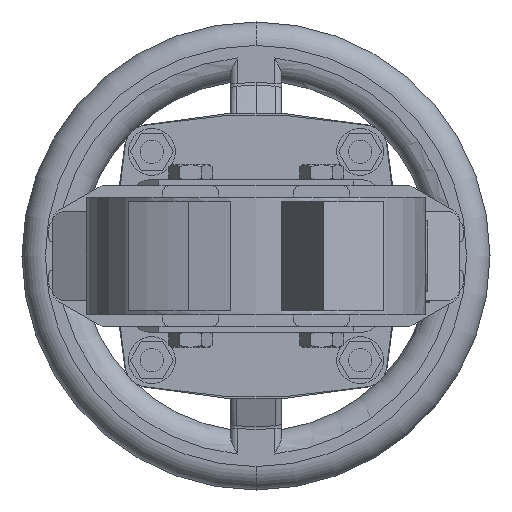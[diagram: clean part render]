
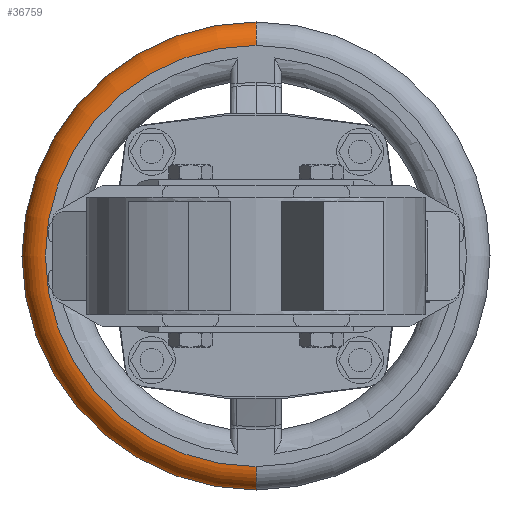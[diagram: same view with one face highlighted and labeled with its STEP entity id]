
A CAD part, front view. The second image highlights one B-rep face of the part: STEP entity #36759.
In plain terms, the highlighted toroidal (fillet/blend) face has major radius 90 mm and minor radius 10 mm.
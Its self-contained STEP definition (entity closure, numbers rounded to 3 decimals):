
#2755 = DIRECTION ( 'NONE',  ( 1., 0., 0. ) ) ;
#2756 = CARTESIAN_POINT ( 'NONE',  ( 0., 829.5, -90. ) ) ;
#2757 = AXIS2_PLACEMENT_3D ( 'NONE', #2756, #2755, #2816 ) ;
#2758 = CIRCLE ( 'NONE', #2757, 10. ) ;
#2759 = CARTESIAN_POINT ( 'NONE',  ( 0., 819.5, -90. ) ) ;
#2760 = CARTESIAN_POINT ( 'NONE',  ( 0., 819.5, 90. ) ) ;
#2809 = CARTESIAN_POINT ( 'NONE',  ( 0., 829.5, 100. ) ) ;
#2815 = CARTESIAN_POINT ( 'NONE',  ( 0., 829.5, -100. ) ) ;
#2816 = DIRECTION ( 'NONE',  ( 0., 0., -1. ) ) ;
#3131 = DIRECTION ( 'NONE',  ( 0., 0., 1. ) ) ;
#3132 = DIRECTION ( 'NONE',  ( -1., 0., 0. ) ) ;
#3133 = CARTESIAN_POINT ( 'NONE',  ( 0., 829.5, 90. ) ) ;
#3134 = AXIS2_PLACEMENT_3D ( 'NONE', #3133, #3132, #3131 ) ;
#3135 = CIRCLE ( 'NONE', #3134, 10. ) ;
#9216 = DIRECTION ( 'NONE',  ( 0., 0., 1. ) ) ;
#9217 = DIRECTION ( 'NONE',  ( 0., 1., 0. ) ) ;
#9218 = AXIS2_PLACEMENT_3D ( 'NONE', #9233, #9217, #9216 ) ;
#9219 = CIRCLE ( 'NONE', #9218, 90. ) ;
#9233 = CARTESIAN_POINT ( 'NONE',  ( 0., 819.5, 0. ) ) ;
#9253 = DIRECTION ( 'NONE',  ( 0., 0., 1. ) ) ;
#9254 = DIRECTION ( 'NONE',  ( 0., 1., 0. ) ) ;
#9255 = AXIS2_PLACEMENT_3D ( 'NONE', #9256, #9254, #9253 ) ;
#9256 = CARTESIAN_POINT ( 'NONE',  ( 0., 829.5, 0. ) ) ;
#9257 = TOROIDAL_SURFACE ( 'NONE', #9255, 90., 10. ) ;
#9258 = FACE_OUTER_BOUND ( 'NONE', #36760, .T. ) ;
#9259 = DIRECTION ( 'NONE',  ( 0., 0., 1. ) ) ;
#9260 = DIRECTION ( 'NONE',  ( 0., 1., 0. ) ) ;
#9261 = CARTESIAN_POINT ( 'NONE',  ( 0., 829.5, 0. ) ) ;
#9262 = AXIS2_PLACEMENT_3D ( 'NONE', #9261, #9260, #9259 ) ;
#9263 = CIRCLE ( 'NONE', #9262, 100. ) ;
#27864 = VERTEX_POINT ( 'NONE', #2760 ) ;
#27865 = VERTEX_POINT ( 'NONE', #2759 ) ;
#27867 = EDGE_CURVE ( 'NONE', #27865, #27868, #2758, .T. ) ;
#27868 = VERTEX_POINT ( 'NONE', #2815 ) ;
#27871 = VERTEX_POINT ( 'NONE', #2809 ) ;
#27997 = EDGE_CURVE ( 'NONE', #27864, #27871, #3135, .T. ) ;
#36737 = ORIENTED_EDGE ( 'NONE', *, *, #27867, .F. ) ;
#36738 = ORIENTED_EDGE ( 'NONE', *, *, #36739, .T. ) ;
#36739 = EDGE_CURVE ( 'NONE', #27865, #27864, #9219, .T. ) ;
#36740 = ORIENTED_EDGE ( 'NONE', *, *, #27997, .T. ) ;
#36741 = ORIENTED_EDGE ( 'NONE', *, *, #36756, .F. ) ;
#36756 = EDGE_CURVE ( 'NONE', #27868, #27871, #9263, .T. ) ;
#36759 = ADVANCED_FACE ( 'NONE', ( #9258 ), #9257, .T. ) ;
#36760 = EDGE_LOOP ( 'NONE', ( #36737, #36738, #36740, #36741 ) ) ;
